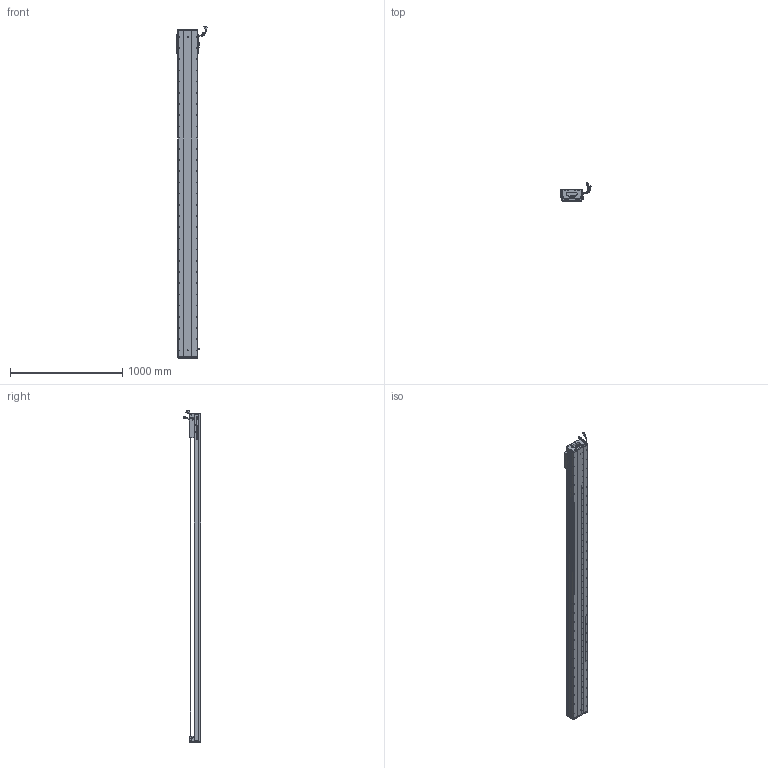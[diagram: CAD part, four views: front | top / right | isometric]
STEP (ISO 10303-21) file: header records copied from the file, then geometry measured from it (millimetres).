
FILE_DESCRIPTION (( 'STEP AP203' ), '1' );
FILE_NAME ('Z2-RY170D-1-L500-B-K.SLDASM_2650.step', '2021-05-17T09:11:37', ( '盈信电脑' ), ( '东莞市道滘镇水果街19号' ), 'SwSTEP 2.0', 'SolidWorks 2016', '' );
FILE_SCHEMA (( 'CONFIG_CONTROL_DESIGN' ));
Length unit declared in the file: millimetre
Products named in the file (36): SHIELDPLATE; Z-RY170詩湍狟揤裔; SCREW-M1.6-2; SCALE-Part-1; 080黍杅芛假蚾釱21遴; SCREW-M1.6-1; Z2-RY170-L500詩湍145mm遵_2650; Z-RY170詩湍奻揤裔; 榋妏寠巭燃_暯_M2_2; RY170直线电机感应器672光电感应片; 170-Z-臏賑輸盄裔(21遴); SCALE-Part-2; PSLH080_PSLF2; SEAL-Part-1; HOLDER0; SCREW-M1.7; COVER; SCREW-M1.6; COVER-Part-1; SCREW-M1.6-3; Z2-RY170臏賑輸(21遴); LABEL; 140雄赽晤鎢ん堤盄; Z2-RY170D-1-L500-B-K.SLDASM_2650; SCALE; Z2-RY170-L500耀郪菁釱_2650; HARNESS-Part-2; HARNESS; Z-170詩湍傷裔啣; 覜茼ん672; LABEL-Part-1; PBU_SHEET; SCREW-M1.7-1; 140蚥薯蝶輸; SEAL; HARNESS-Part-1
Assembly tree (41 placements, depth 4):
  Z2-RY170D-1-L500-B-K.SLDASM_2650
    Z2-RY170-L500耀郪菁釱_2650
    RY170直线电机感应器672光电感应片
    Z2-RY170臏賑輸(21遴)
    覜茼ん672  x3
    PSLH080_PSLF2
      SCALE
        SCALE-Part-1
        SCALE-Part-2
      HARNESS
        HARNESS-Part-1
        HARNESS-Part-2
      LABEL
        LABEL-Part-1
      COVER
        COVER-Part-1
      SEAL
        SEAL-Part-1
      榋妏寠巭燃_暯_M2_2
      SHIELDPLATE
      SCREW-M1.7
      SCREW-M1.7-1
      PBU_SHEET
      SCREW-M1.6
      SCREW-M1.6-1
      SCREW-M1.6-2
      SCREW-M1.6-3
      HOLDER0
    080黍杅芛假蚾釱21遴
    Z2-RY170-L500詩湍145mm遵_2650
    Z-170詩湍傷裔啣  x2
    Z-RY170詩湍奻揤裔  x2
    Z-RY170詩湍狟揤裔  x2
    140蚥薯蝶輸  x2
    170-Z-臏賑輸盄裔(21遴)
    140雄赽晤鎢ん堤盄
Bounding box: 275.29 x 158.11 x 2963.72 mm (x, y, z)
Volume: 14319939.6 mm3; surface area: 3556739.9 mm2
Topology: 36 solids, 36 shells, 4286 faces, 11961 edges, 7465 vertices
Faces by surface type: cylinder 2196, plane 1348, cone 620, torus 69, bspline 53
Entity records: 136689 total; most frequent: CARTESIAN_POINT 38870, ORIENTED_EDGE 20286, DIRECTION 18711, EDGE_CURVE 10143, AXIS2_PLACEMENT_3D 6904, VERTEX_POINT 6583, LINE 4903, VECTOR 4903
